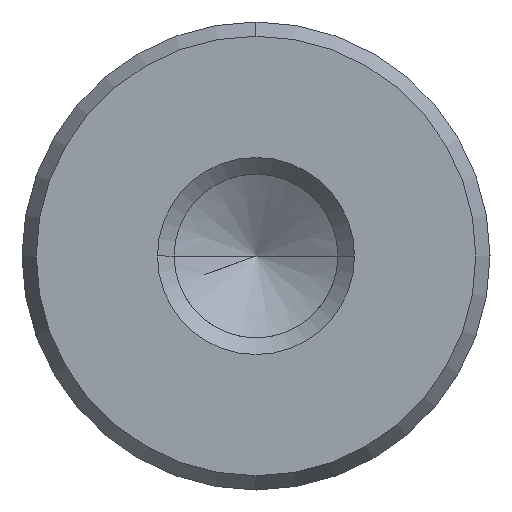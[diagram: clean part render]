
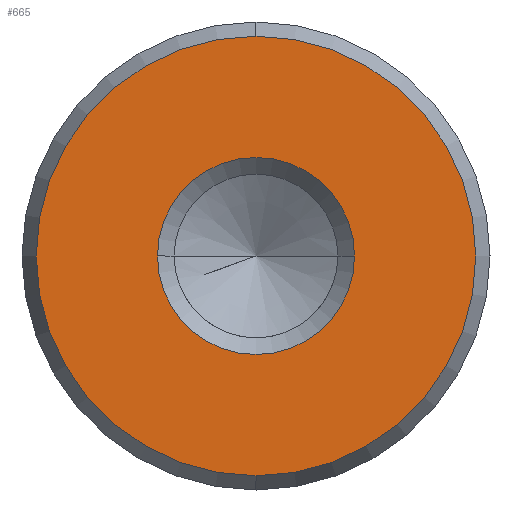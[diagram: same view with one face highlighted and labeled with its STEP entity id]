
A CAD part, left-side view. The second image highlights one B-rep face of the part: STEP entity #665.
In plain terms, the highlighted planar face has unit normal (-1, 0, 0).
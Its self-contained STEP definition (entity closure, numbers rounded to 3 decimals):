
#579=CARTESIAN_POINT('Vertex',(0.,0.,-8.923)) ;
#582=CARTESIAN_POINT('Axis2P3D Location',(0.,0.,0.)) ;
#586=CARTESIAN_POINT('Vertex',(0.,8.923,0.)) ;
#589=CARTESIAN_POINT('Axis2P3D Location',(0.,0.,0.)) ;
#593=CARTESIAN_POINT('Vertex',(0.,0.,8.923)) ;
#615=CARTESIAN_POINT('Axis2P3D Location',(0.,0.,0.)) ;
#619=CARTESIAN_POINT('Vertex',(0.,-8.923,0.)) ;
#622=CARTESIAN_POINT('Axis2P3D Location',(0.,0.,0.)) ;
#636=CARTESIAN_POINT('Axis2P3D Location',(0.,0.,0.)) ;
#647=CARTESIAN_POINT('Axis2P3D Location',(0.,0.,0.)) ;
#651=CARTESIAN_POINT('Vertex',(0.,4.,0.)) ;
#653=CARTESIAN_POINT('Vertex',(0.,-4.,0.)) ;
#656=CARTESIAN_POINT('Axis2P3D Location',(0.,0.,0.)) ;
#583=DIRECTION('Axis2P3D Direction',(1.,0.,-0.)) ;
#590=DIRECTION('Axis2P3D Direction',(1.,0.,-0.)) ;
#616=DIRECTION('Axis2P3D Direction',(1.,0.,-0.)) ;
#623=DIRECTION('Axis2P3D Direction',(1.,0.,-0.)) ;
#637=DIRECTION('Axis2P3D Direction',(1.,0.,-0.)) ;
#638=DIRECTION('Axis2P3D XDirection',(-0.,0.,-1.)) ;
#648=DIRECTION('Axis2P3D Direction',(1.,0.,-0.)) ;
#657=DIRECTION('Axis2P3D Direction',(1.,0.,-0.)) ;
#584=AXIS2_PLACEMENT_3D('Circle Axis2P3D',#582,#583,$) ;
#591=AXIS2_PLACEMENT_3D('Circle Axis2P3D',#589,#590,$) ;
#617=AXIS2_PLACEMENT_3D('Circle Axis2P3D',#615,#616,$) ;
#624=AXIS2_PLACEMENT_3D('Circle Axis2P3D',#622,#623,$) ;
#639=AXIS2_PLACEMENT_3D('Plane Axis2P3D',#636,#637,#638) ;
#649=AXIS2_PLACEMENT_3D('Circle Axis2P3D',#647,#648,$) ;
#658=AXIS2_PLACEMENT_3D('Circle Axis2P3D',#656,#657,$) ;
#642=ORIENTED_EDGE('',*,*,#588,.F.) ;
#643=ORIENTED_EDGE('',*,*,#626,.F.) ;
#644=ORIENTED_EDGE('',*,*,#621,.F.) ;
#645=ORIENTED_EDGE('',*,*,#595,.F.) ;
#662=ORIENTED_EDGE('',*,*,#655,.T.) ;
#663=ORIENTED_EDGE('',*,*,#660,.T.) ;
#664=FACE_BOUND('',#661,.T.) ;
#665=ADVANCED_FACE('720-19x100',(#646,#664),#640,.F.) ;
#585=CIRCLE('generated circle',#584,8.923) ;
#592=CIRCLE('generated circle',#591,8.923) ;
#618=CIRCLE('generated circle',#617,8.923) ;
#625=CIRCLE('generated circle',#624,8.923) ;
#650=CIRCLE('generated circle',#649,4.) ;
#659=CIRCLE('generated circle',#658,4.) ;
#588=EDGE_CURVE('',#580,#587,#585,.T.) ;
#595=EDGE_CURVE('',#587,#594,#592,.T.) ;
#621=EDGE_CURVE('',#594,#620,#618,.T.) ;
#626=EDGE_CURVE('',#620,#580,#625,.T.) ;
#655=EDGE_CURVE('',#652,#654,#650,.T.) ;
#660=EDGE_CURVE('',#654,#652,#659,.T.) ;
#641=EDGE_LOOP('',(#642,#643,#644,#645)) ;
#661=EDGE_LOOP('',(#662,#663)) ;
#646=FACE_OUTER_BOUND('',#641,.T.) ;
#640=PLANE('Plane',#639) ;
#580=VERTEX_POINT('',#579) ;
#587=VERTEX_POINT('',#586) ;
#594=VERTEX_POINT('',#593) ;
#620=VERTEX_POINT('',#619) ;
#652=VERTEX_POINT('',#651) ;
#654=VERTEX_POINT('',#653) ;
